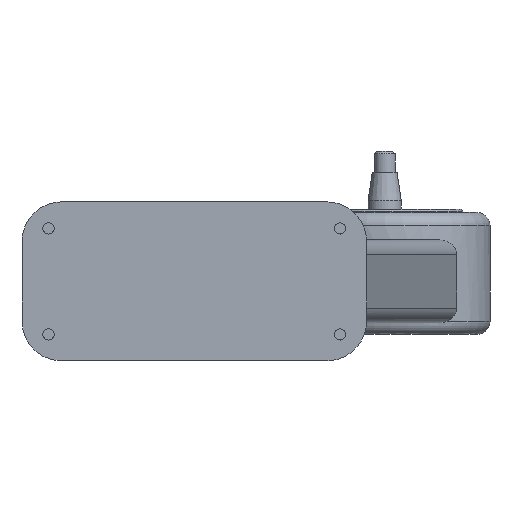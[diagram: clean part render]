
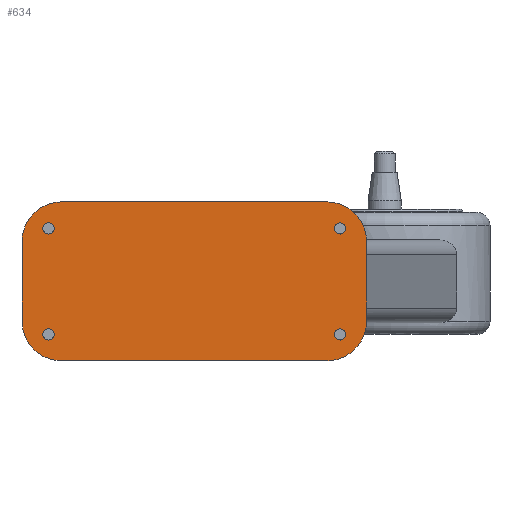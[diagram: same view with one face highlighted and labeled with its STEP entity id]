
A CAD part, front view. The second image highlights one B-rep face of the part: STEP entity #634.
In plain terms, the highlighted planar face has unit normal (0, -1, 0).
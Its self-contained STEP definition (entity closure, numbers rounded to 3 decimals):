
#24 = VERTEX_POINT ( 'NONE', #1903 ) ;
#34 = CARTESIAN_POINT ( 'NONE',  ( 103.675, 0., 60. ) ) ;
#45 = DIRECTION ( 'NONE',  ( 1., 0., 0. ) ) ;
#47 = VECTOR ( 'NONE', #2101, 1000. ) ;
#52 = DIRECTION ( 'NONE',  ( 0., -1., 0. ) ) ;
#53 = ORIENTED_EDGE ( 'NONE', *, *, #818, .F. ) ;
#56 = CARTESIAN_POINT ( 'NONE',  ( 113.675, 0., -40. ) ) ;
#64 = CARTESIAN_POINT ( 'NONE',  ( -110.575, 0., -40. ) ) ;
#66 = CARTESIAN_POINT ( 'NONE',  ( 133.675, 0., 60. ) ) ;
#67 = VERTEX_POINT ( 'NONE', #401 ) ;
#77 = DIRECTION ( 'NONE',  ( 1., 0., 0. ) ) ;
#127 = DIRECTION ( 'NONE',  ( 1., 0., 0. ) ) ;
#133 = DIRECTION ( 'NONE',  ( 0., -1., 0. ) ) ;
#138 = CARTESIAN_POINT ( 'NONE',  ( 113.675, 0., 40. ) ) ;
#204 = CARTESIAN_POINT ( 'NONE',  ( -96.325, 0., 60. ) ) ;
#206 = AXIS2_PLACEMENT_3D ( 'NONE', #258, #1676, #1444 ) ;
#215 = CIRCLE ( 'NONE', #536, 4.25 ) ;
#241 = CARTESIAN_POINT ( 'NONE',  ( 109.425, 0., 40. ) ) ;
#258 = CARTESIAN_POINT ( 'NONE',  ( 113.675, 0., 40. ) ) ;
#271 = CIRCLE ( 'NONE', #1809, 4.25 ) ;
#278 = AXIS2_PLACEMENT_3D ( 'NONE', #138, #133, #127 ) ;
#281 = VERTEX_POINT ( 'NONE', #1459 ) ;
#284 = ORIENTED_EDGE ( 'NONE', *, *, #655, .F. ) ;
#308 = DIRECTION ( 'NONE',  ( 1., 0., 0. ) ) ;
#312 = DIRECTION ( 'NONE',  ( 0., -1., 0. ) ) ;
#315 = CARTESIAN_POINT ( 'NONE',  ( -106.325, 0., 40. ) ) ;
#344 = ORIENTED_EDGE ( 'NONE', *, *, #1879, .T. ) ;
#345 = EDGE_LOOP ( 'NONE', ( #1972, #718 ) ) ;
#366 = CARTESIAN_POINT ( 'NONE',  ( -106.325, 0., -40. ) ) ;
#367 = CIRCLE ( 'NONE', #958, 4.25 ) ;
#375 = CARTESIAN_POINT ( 'NONE',  ( 103.675, 0., -60. ) ) ;
#386 = EDGE_CURVE ( 'NONE', #1383, #1942, #367, .T. ) ;
#393 = FACE_BOUND ( 'NONE', #2308, .T. ) ;
#396 = DIRECTION ( 'NONE',  ( 0., 1., 0. ) ) ;
#401 = CARTESIAN_POINT ( 'NONE',  ( -126.325, 0., 30. ) ) ;
#416 = DIRECTION ( 'NONE',  ( -1., 0., 0. ) ) ;
#417 = CIRCLE ( 'NONE', #1512, 4.25 ) ;
#423 = LINE ( 'NONE', #1402, #2249 ) ;
#452 = DIRECTION ( 'NONE',  ( 1., 0., 0. ) ) ;
#463 = DIRECTION ( 'NONE',  ( 0., -1., 0. ) ) ;
#477 = PLANE ( 'NONE',  #1277 ) ;
#482 = CIRCLE ( 'NONE', #1035, 4.25 ) ;
#490 = CARTESIAN_POINT ( 'NONE',  ( -126.325, 0., 60. ) ) ;
#503 = DIRECTION ( 'NONE',  ( 0., -1., 0. ) ) ;
#519 = DIRECTION ( 'NONE',  ( -1., 0., 0. ) ) ;
#521 = ORIENTED_EDGE ( 'NONE', *, *, #1829, .F. ) ;
#525 = CARTESIAN_POINT ( 'NONE',  ( 103.675, 0., -30. ) ) ;
#532 = CARTESIAN_POINT ( 'NONE',  ( -96.325, 0., -30. ) ) ;
#536 = AXIS2_PLACEMENT_3D ( 'NONE', #56, #52, #45 ) ;
#589 = CARTESIAN_POINT ( 'NONE',  ( -110.575, 0., 40. ) ) ;
#598 = CIRCLE ( 'NONE', #206, 4.25 ) ;
#610 = EDGE_CURVE ( 'NONE', #2115, #1350, #1430, .T. ) ;
#633 = CARTESIAN_POINT ( 'NONE',  ( 133.675, 0., -30. ) ) ;
#634 = ADVANCED_FACE ( 'NONE', ( #393, #1367, #1308, #875, #813 ), #477, .F. ) ;
#655 = EDGE_CURVE ( 'NONE', #1942, #1383, #271, .T. ) ;
#663 = AXIS2_PLACEMENT_3D ( 'NONE', #525, #503, #519 ) ;
#702 = EDGE_CURVE ( 'NONE', #827, #2015, #1074, .T. ) ;
#718 = ORIENTED_EDGE ( 'NONE', *, *, #2150, .F. ) ;
#732 = EDGE_CURVE ( 'NONE', #1014, #2181, #215, .T. ) ;
#757 = CARTESIAN_POINT ( 'NONE',  ( 109.425, 0., -40. ) ) ;
#765 = VERTEX_POINT ( 'NONE', #34 ) ;
#766 = ORIENTED_EDGE ( 'NONE', *, *, #732, .F. ) ;
#813 = FACE_OUTER_BOUND ( 'NONE', #1890, .T. ) ;
#818 = EDGE_CURVE ( 'NONE', #24, #1975, #417, .T. ) ;
#827 = VERTEX_POINT ( 'NONE', #1590 ) ;
#859 = CARTESIAN_POINT ( 'NONE',  ( -102.075, 0., 40. ) ) ;
#875 = FACE_BOUND ( 'NONE', #983, .T. ) ;
#958 = AXIS2_PLACEMENT_3D ( 'NONE', #1157, #1153, #1151 ) ;
#975 = AXIS2_PLACEMENT_3D ( 'NONE', #2107, #2102, #2071 ) ;
#983 = EDGE_LOOP ( 'NONE', ( #284, #1442 ) ) ;
#991 = EDGE_CURVE ( 'NONE', #1697, #67, #1596, .T. ) ;
#1014 = VERTEX_POINT ( 'NONE', #2028 ) ;
#1021 = CIRCLE ( 'NONE', #1856, 4.25 ) ;
#1035 = AXIS2_PLACEMENT_3D ( 'NONE', #2270, #2267, #2263 ) ;
#1055 = ORIENTED_EDGE ( 'NONE', *, *, #991, .T. ) ;
#1074 = CIRCLE ( 'NONE', #278, 4.25 ) ;
#1151 = DIRECTION ( 'NONE',  ( 1., 0., 0. ) ) ;
#1153 = DIRECTION ( 'NONE',  ( 0., -1., 0. ) ) ;
#1157 = CARTESIAN_POINT ( 'NONE',  ( -106.325, 0., 40. ) ) ;
#1165 = VECTOR ( 'NONE', #1207, 1000. ) ;
#1199 = ORIENTED_EDGE ( 'NONE', *, *, #1492, .F. ) ;
#1207 = DIRECTION ( 'NONE',  ( 0., 0., -1. ) ) ;
#1277 = AXIS2_PLACEMENT_3D ( 'NONE', #490, #396, #416 ) ;
#1283 = AXIS2_PLACEMENT_3D ( 'NONE', #1420, #1414, #2057 ) ;
#1308 = FACE_BOUND ( 'NONE', #345, .T. ) ;
#1350 = VERTEX_POINT ( 'NONE', #633 ) ;
#1367 = FACE_BOUND ( 'NONE', #1755, .T. ) ;
#1383 = VERTEX_POINT ( 'NONE', #589 ) ;
#1402 = CARTESIAN_POINT ( 'NONE',  ( -126.325, 0., 60. ) ) ;
#1414 = DIRECTION ( 'NONE',  ( 0., -1., 0. ) ) ;
#1420 = CARTESIAN_POINT ( 'NONE',  ( 103.675, 0., 30. ) ) ;
#1430 = CIRCLE ( 'NONE', #663, 30. ) ;
#1442 = ORIENTED_EDGE ( 'NONE', *, *, #386, .F. ) ;
#1444 = DIRECTION ( 'NONE',  ( 1., 0., 0. ) ) ;
#1459 = CARTESIAN_POINT ( 'NONE',  ( 133.675, 0., 30. ) ) ;
#1492 = EDGE_CURVE ( 'NONE', #281, #1350, #1661, .T. ) ;
#1498 = ORIENTED_EDGE ( 'NONE', *, *, #1816, .T. ) ;
#1502 = DIRECTION ( 'NONE',  ( 1., 0., 0. ) ) ;
#1512 = AXIS2_PLACEMENT_3D ( 'NONE', #1582, #1530, #1502 ) ;
#1530 = DIRECTION ( 'NONE',  ( 0., -1., 0. ) ) ;
#1569 = VECTOR ( 'NONE', #77, 1000. ) ;
#1574 = ORIENTED_EDGE ( 'NONE', *, *, #610, .T. ) ;
#1582 = CARTESIAN_POINT ( 'NONE',  ( -106.325, 0., -40. ) ) ;
#1586 = VERTEX_POINT ( 'NONE', #1721 ) ;
#1590 = CARTESIAN_POINT ( 'NONE',  ( 117.925, 0., 40. ) ) ;
#1596 = CIRCLE ( 'NONE', #975, 30. ) ;
#1604 = CIRCLE ( 'NONE', #1679, 30. ) ;
#1630 = LINE ( 'NONE', #1768, #47 ) ;
#1661 = LINE ( 'NONE', #66, #1165 ) ;
#1676 = DIRECTION ( 'NONE',  ( 0., -1., 0. ) ) ;
#1679 = AXIS2_PLACEMENT_3D ( 'NONE', #532, #2007, #1875 ) ;
#1697 = VERTEX_POINT ( 'NONE', #204 ) ;
#1721 = CARTESIAN_POINT ( 'NONE',  ( -126.325, 0., -30. ) ) ;
#1755 = EDGE_LOOP ( 'NONE', ( #766, #2282 ) ) ;
#1768 = CARTESIAN_POINT ( 'NONE',  ( -126.325, 0., -60. ) ) ;
#1809 = AXIS2_PLACEMENT_3D ( 'NONE', #315, #312, #308 ) ;
#1816 = EDGE_CURVE ( 'NONE', #1889, #2115, #1630, .T. ) ;
#1829 = EDGE_CURVE ( 'NONE', #1697, #765, #1986, .T. ) ;
#1856 = AXIS2_PLACEMENT_3D ( 'NONE', #366, #463, #452 ) ;
#1857 = EDGE_CURVE ( 'NONE', #2181, #1014, #482, .T. ) ;
#1875 = DIRECTION ( 'NONE',  ( -1., 0., 0. ) ) ;
#1879 = EDGE_CURVE ( 'NONE', #281, #765, #1881, .T. ) ;
#1881 = CIRCLE ( 'NONE', #1283, 30. ) ;
#1888 = ORIENTED_EDGE ( 'NONE', *, *, #2304, .T. ) ;
#1889 = VERTEX_POINT ( 'NONE', #2031 ) ;
#1890 = EDGE_LOOP ( 'NONE', ( #1498, #1574, #1199, #344, #521, #1055, #2114, #1888 ) ) ;
#1894 = EDGE_CURVE ( 'NONE', #67, #1586, #423, .T. ) ;
#1903 = CARTESIAN_POINT ( 'NONE',  ( -102.075, 0., -40. ) ) ;
#1942 = VERTEX_POINT ( 'NONE', #859 ) ;
#1972 = ORIENTED_EDGE ( 'NONE', *, *, #702, .F. ) ;
#1975 = VERTEX_POINT ( 'NONE', #64 ) ;
#1986 = LINE ( 'NONE', #2078, #1569 ) ;
#2007 = DIRECTION ( 'NONE',  ( 0., -1., 0. ) ) ;
#2015 = VERTEX_POINT ( 'NONE', #241 ) ;
#2028 = CARTESIAN_POINT ( 'NONE',  ( 117.925, 0., -40. ) ) ;
#2031 = CARTESIAN_POINT ( 'NONE',  ( -96.325, 0., -60. ) ) ;
#2047 = DIRECTION ( 'NONE',  ( 0., 0., -1. ) ) ;
#2057 = DIRECTION ( 'NONE',  ( -1., 0., 0. ) ) ;
#2071 = DIRECTION ( 'NONE',  ( -1., 0., 0. ) ) ;
#2078 = CARTESIAN_POINT ( 'NONE',  ( -126.325, 0., 60. ) ) ;
#2101 = DIRECTION ( 'NONE',  ( 1., 0., 0. ) ) ;
#2102 = DIRECTION ( 'NONE',  ( 0., -1., 0. ) ) ;
#2107 = CARTESIAN_POINT ( 'NONE',  ( -96.325, 0., 30. ) ) ;
#2109 = EDGE_CURVE ( 'NONE', #1975, #24, #1021, .T. ) ;
#2114 = ORIENTED_EDGE ( 'NONE', *, *, #1894, .T. ) ;
#2115 = VERTEX_POINT ( 'NONE', #375 ) ;
#2138 = ORIENTED_EDGE ( 'NONE', *, *, #2109, .F. ) ;
#2150 = EDGE_CURVE ( 'NONE', #2015, #827, #598, .T. ) ;
#2181 = VERTEX_POINT ( 'NONE', #757 ) ;
#2249 = VECTOR ( 'NONE', #2047, 1000. ) ;
#2263 = DIRECTION ( 'NONE',  ( 1., 0., 0. ) ) ;
#2267 = DIRECTION ( 'NONE',  ( 0., -1., 0. ) ) ;
#2270 = CARTESIAN_POINT ( 'NONE',  ( 113.675, 0., -40. ) ) ;
#2282 = ORIENTED_EDGE ( 'NONE', *, *, #1857, .F. ) ;
#2304 = EDGE_CURVE ( 'NONE', #1586, #1889, #1604, .T. ) ;
#2308 = EDGE_LOOP ( 'NONE', ( #53, #2138 ) ) ;
